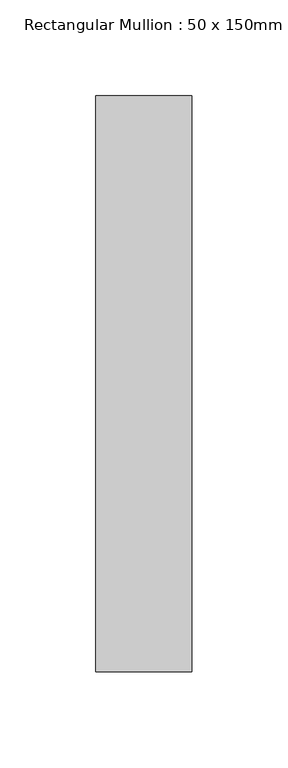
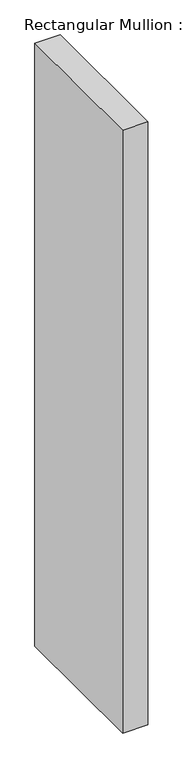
"""IFC4 building model written with IfcOpenShell, lengths in millimetres: member geometry, Rectangular Mullion : 50 x 150mm."""

from ifc_helpers import new_model, si_unit, frame, origin, place, context, project, spatial, polyline, outline, extrude, source, transform, mapped, element, save


def rectangular_mullion_50_x_150mm_d3e66214(model_context):
    return source(origin(), model_context, "Body", "SweptSolid", [
        extrude(outline(polyline([(0.0, 125.0), (0.0, -175.0), (-50.0, -175.0), (-50.0, 125.0), (0.0, 125.0)])), frame((0.0, 0.0, -1259.8613113), z_axis=(0.0, 0.0, 1.0), x_axis=(1.0, 0.0, 0.0)), (0.0, 0.0, 1.0), 1259.8613113),
    ])


if __name__ == "__main__":
    model = new_model("IFC4")
    model_context = context("Model", 3, world=origin())
    ifc_project = project(units=[si_unit("LENGTHUNIT", "METRE", prefix="MILLI")], contexts=[model_context])
    site = spatial("IfcSite", under=ifc_project)
    building = spatial("IfcBuilding", under=site)
    placement = place(None, origin())
    rectangular_mullion_50_x_150mm_shape = rectangular_mullion_50_x_150mm_d3e66214(model_context)
    element("IfcMember", 1, ObjectType="Rectangular Mullion : 50 x 150mm", at=placement, inside=building, context=model_context, shape_type="MappedRepresentation", body=[
        mapped(rectangular_mullion_50_x_150mm_shape, transform((0.0, 0.0, 0.0), x_axis=(1.0, 0.0, 0.0), y_axis=(0.0, 1.0, 0.0), z_axis=(0.0, 0.0, 1.0))),
    ])
    save(model, "model.ifc")
